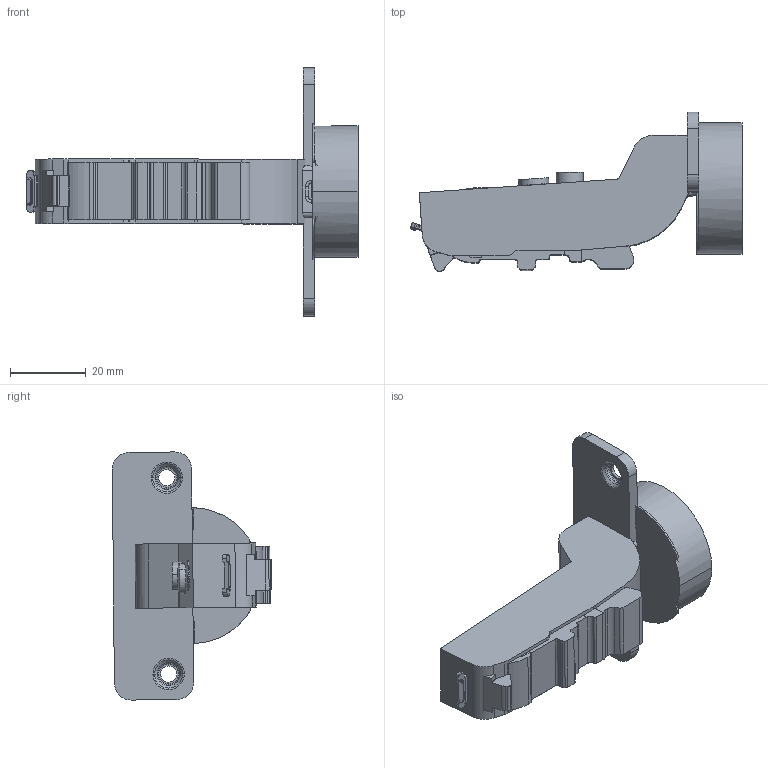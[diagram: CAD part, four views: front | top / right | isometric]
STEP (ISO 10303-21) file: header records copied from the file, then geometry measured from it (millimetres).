
FILE_DESCRIPTION (( 'STEP AP203' ), '1' );
FILE_NAME ('C81C877FAB DTC 3D CLOSE.STEP', '2024-07-18T06:44:47', ( '微软用户' ), ( '微软中国' ), 'SwSTEP 2.0', 'SolidWorks 2021', '' );
FILE_SCHEMA (( 'CONFIG_CONTROL_DESIGN' ));
Length unit declared in the file: millimetre
Products named in the file (1): C81C877FAB DTC 3D CLOSE
Bounding box: 87.94 x 42.2 x 65.71 mm (x, y, z)
Volume: 40462.2 mm3; surface area: 11596.6 mm2
Topology: 1 solids, 2 shells, 256 faces, 706 edges, 462 vertices
Faces by surface type: cylinder 110, plane 102, torus 28, bspline 12, cone 4
Entity records: 8481 total; most frequent: CARTESIAN_POINT 1791, ORIENTED_EDGE 1412, DIRECTION 1410, EDGE_CURVE 706, AXIS2_PLACEMENT_3D 521, VERTEX_POINT 462, VECTOR 368, LINE 368
